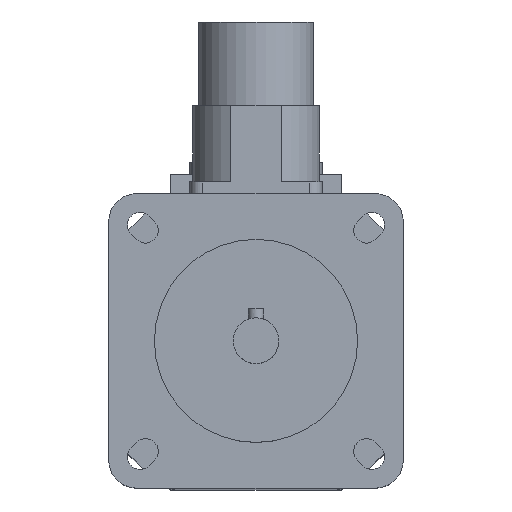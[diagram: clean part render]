
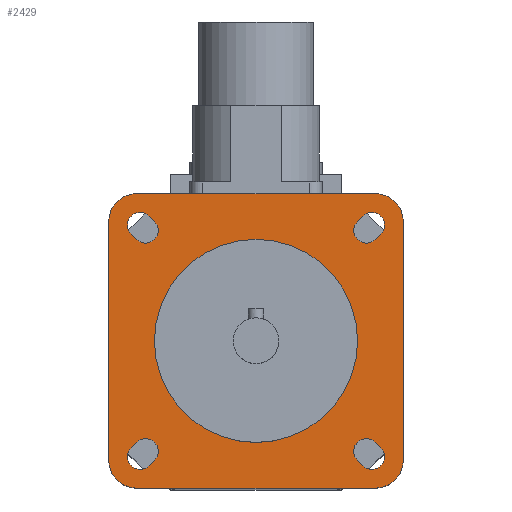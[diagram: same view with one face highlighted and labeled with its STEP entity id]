
A CAD part, top view. The second image highlights one B-rep face of the part: STEP entity #2429.
In plain terms, the highlighted planar face has unit normal (0, 0, 1).
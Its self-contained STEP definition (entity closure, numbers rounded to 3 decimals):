
#28=FACE_BOUND('',#427,.T.);
#29=FACE_BOUND('',#428,.T.);
#30=FACE_BOUND('',#429,.T.);
#31=FACE_BOUND('',#430,.T.);
#32=FACE_BOUND('',#431,.T.);
#47=CIRCLE('',#2525,20.);
#84=CIRCLE('',#2589,2.5);
#88=CIRCLE('',#2596,2.5);
#89=CIRCLE('',#2599,2.5);
#90=CIRCLE('',#2602,2.5);
#100=CIRCLE('',#2617,2.5);
#101=CIRCLE('',#2620,2.5);
#102=CIRCLE('',#2623,2.5);
#103=CIRCLE('',#2626,2.5);
#104=CIRCLE('',#2628,5.5);
#105=CIRCLE('',#2630,5.5);
#106=CIRCLE('',#2632,5.5);
#107=CIRCLE('',#2634,5.5);
#282=FACE_OUTER_BOUND('',#426,.T.);
#426=EDGE_LOOP('',(#1862,#1863,#1864,#1865,#1866,#1867,#1868,#1869));
#427=EDGE_LOOP('',(#1870));
#428=EDGE_LOOP('',(#1871,#1872,#1873,#1874));
#429=EDGE_LOOP('',(#1875,#1876,#1877,#1878));
#430=EDGE_LOOP('',(#1879,#1880,#1881,#1882));
#431=EDGE_LOOP('',(#1883,#1884,#1885,#1886));
#576=LINE('',#3759,#807);
#584=LINE('',#3783,#815);
#588=LINE('',#3793,#819);
#592=LINE('',#3803,#823);
#608=LINE('',#3854,#839);
#610=LINE('',#3860,#841);
#612=LINE('',#3866,#843);
#614=LINE('',#3872,#845);
#623=LINE('',#3900,#854);
#624=LINE('',#3901,#855);
#625=LINE('',#3902,#856);
#626=LINE('',#3903,#857);
#807=VECTOR('',#2980,1.5);
#815=VECTOR('',#3002,1.5);
#819=VECTOR('',#3012,1.5);
#823=VECTOR('',#3022,1.5);
#839=VECTOR('',#3068,1.5);
#841=VECTOR('',#3076,1.5);
#843=VECTOR('',#3084,1.5);
#845=VECTOR('',#3092,1.5);
#854=VECTOR('',#3123,47.);
#855=VECTOR('',#3124,47.);
#856=VECTOR('',#3125,47.);
#857=VECTOR('',#3126,47.);
#992=VERTEX_POINT('',#3580);
#1057=VERTEX_POINT('',#3756);
#1058=VERTEX_POINT('',#3758);
#1059=VERTEX_POINT('',#3762);
#1066=VERTEX_POINT('',#3780);
#1067=VERTEX_POINT('',#3782);
#1068=VERTEX_POINT('',#3786);
#1069=VERTEX_POINT('',#3790);
#1070=VERTEX_POINT('',#3792);
#1071=VERTEX_POINT('',#3796);
#1072=VERTEX_POINT('',#3800);
#1073=VERTEX_POINT('',#3802);
#1074=VERTEX_POINT('',#3806);
#1093=VERTEX_POINT('',#3852);
#1094=VERTEX_POINT('',#3858);
#1095=VERTEX_POINT('',#3864);
#1096=VERTEX_POINT('',#3870);
#1097=VERTEX_POINT('',#3876);
#1098=VERTEX_POINT('',#3878);
#1099=VERTEX_POINT('',#3882);
#1100=VERTEX_POINT('',#3884);
#1101=VERTEX_POINT('',#3888);
#1102=VERTEX_POINT('',#3890);
#1103=VERTEX_POINT('',#3894);
#1104=VERTEX_POINT('',#3896);
#1234=EDGE_CURVE('',#992,#992,#47,.T.);
#1320=EDGE_CURVE('',#1058,#1057,#576,.T.);
#1323=EDGE_CURVE('',#1057,#1059,#84,.T.);
#1332=EDGE_CURVE('',#1067,#1066,#584,.T.);
#1335=EDGE_CURVE('',#1066,#1068,#88,.T.);
#1337=EDGE_CURVE('',#1070,#1069,#588,.T.);
#1340=EDGE_CURVE('',#1069,#1071,#89,.T.);
#1342=EDGE_CURVE('',#1073,#1072,#592,.T.);
#1345=EDGE_CURVE('',#1072,#1074,#90,.T.);
#1368=EDGE_CURVE('',#1071,#1093,#608,.T.);
#1369=EDGE_CURVE('',#1093,#1070,#100,.T.);
#1371=EDGE_CURVE('',#1068,#1094,#610,.T.);
#1372=EDGE_CURVE('',#1094,#1067,#101,.T.);
#1374=EDGE_CURVE('',#1074,#1095,#612,.T.);
#1375=EDGE_CURVE('',#1095,#1073,#102,.T.);
#1377=EDGE_CURVE('',#1059,#1096,#614,.T.);
#1378=EDGE_CURVE('',#1096,#1058,#103,.T.);
#1380=EDGE_CURVE('',#1098,#1097,#104,.T.);
#1383=EDGE_CURVE('',#1100,#1099,#105,.T.);
#1386=EDGE_CURVE('',#1102,#1101,#106,.T.);
#1389=EDGE_CURVE('',#1104,#1103,#107,.T.);
#1391=EDGE_CURVE('',#1097,#1104,#623,.T.);
#1392=EDGE_CURVE('',#1103,#1102,#624,.T.);
#1393=EDGE_CURVE('',#1101,#1100,#625,.T.);
#1394=EDGE_CURVE('',#1099,#1098,#626,.T.);
#1862=ORIENTED_EDGE('',*,*,#1391,.T.);
#1863=ORIENTED_EDGE('',*,*,#1389,.T.);
#1864=ORIENTED_EDGE('',*,*,#1392,.T.);
#1865=ORIENTED_EDGE('',*,*,#1386,.T.);
#1866=ORIENTED_EDGE('',*,*,#1393,.T.);
#1867=ORIENTED_EDGE('',*,*,#1383,.T.);
#1868=ORIENTED_EDGE('',*,*,#1394,.T.);
#1869=ORIENTED_EDGE('',*,*,#1380,.T.);
#1870=ORIENTED_EDGE('',*,*,#1234,.T.);
#1871=ORIENTED_EDGE('',*,*,#1368,.T.);
#1872=ORIENTED_EDGE('',*,*,#1369,.T.);
#1873=ORIENTED_EDGE('',*,*,#1337,.T.);
#1874=ORIENTED_EDGE('',*,*,#1340,.T.);
#1875=ORIENTED_EDGE('',*,*,#1371,.T.);
#1876=ORIENTED_EDGE('',*,*,#1372,.T.);
#1877=ORIENTED_EDGE('',*,*,#1332,.T.);
#1878=ORIENTED_EDGE('',*,*,#1335,.T.);
#1879=ORIENTED_EDGE('',*,*,#1374,.T.);
#1880=ORIENTED_EDGE('',*,*,#1375,.T.);
#1881=ORIENTED_EDGE('',*,*,#1342,.T.);
#1882=ORIENTED_EDGE('',*,*,#1345,.T.);
#1883=ORIENTED_EDGE('',*,*,#1377,.T.);
#1884=ORIENTED_EDGE('',*,*,#1378,.T.);
#1885=ORIENTED_EDGE('',*,*,#1320,.T.);
#1886=ORIENTED_EDGE('',*,*,#1323,.T.);
#2328=PLANE('',#2635);
#2429=ADVANCED_FACE('',(#282,#28,#29,#30,#31,#32),#2328,.T.);
#2525=AXIS2_PLACEMENT_3D('',#3581,#2805,#2806);
#2589=AXIS2_PLACEMENT_3D('',#3764,#2985,#2986);
#2596=AXIS2_PLACEMENT_3D('',#3788,#3007,#3008);
#2599=AXIS2_PLACEMENT_3D('',#3798,#3017,#3018);
#2602=AXIS2_PLACEMENT_3D('',#3808,#3027,#3028);
#2617=AXIS2_PLACEMENT_3D('',#3856,#3071,#3072);
#2620=AXIS2_PLACEMENT_3D('',#3862,#3079,#3080);
#2623=AXIS2_PLACEMENT_3D('',#3868,#3087,#3088);
#2626=AXIS2_PLACEMENT_3D('',#3874,#3095,#3096);
#2628=AXIS2_PLACEMENT_3D('',#3879,#3100,#3101);
#2630=AXIS2_PLACEMENT_3D('',#3885,#3106,#3107);
#2632=AXIS2_PLACEMENT_3D('',#3891,#3112,#3113);
#2634=AXIS2_PLACEMENT_3D('',#3897,#3118,#3119);
#2635=AXIS2_PLACEMENT_3D('',#3899,#3121,#3122);
#2805=DIRECTION('center_axis',(0.,0.,-1.));
#2806=DIRECTION('ref_axis',(-1.,0.,0.));
#2980=DIRECTION('',(-0.707,-0.707,0.));
#2985=DIRECTION('center_axis',(0.,0.,-1.));
#2986=DIRECTION('ref_axis',(0.707,-0.707,0.));
#3002=DIRECTION('',(-0.707,0.707,0.));
#3007=DIRECTION('center_axis',(0.,0.,-1.));
#3008=DIRECTION('ref_axis',(-0.707,-0.707,0.));
#3012=DIRECTION('',(-0.707,-0.707,0.));
#3017=DIRECTION('center_axis',(0.,0.,-1.));
#3018=DIRECTION('ref_axis',(0.707,-0.707,0.));
#3022=DIRECTION('',(-0.707,0.707,0.));
#3027=DIRECTION('center_axis',(0.,0.,-1.));
#3028=DIRECTION('ref_axis',(-0.707,-0.707,0.));
#3068=DIRECTION('',(0.707,0.707,0.));
#3071=DIRECTION('center_axis',(0.,0.,-1.));
#3072=DIRECTION('ref_axis',(-0.707,0.707,0.));
#3076=DIRECTION('',(0.707,-0.707,0.));
#3079=DIRECTION('center_axis',(0.,0.,-1.));
#3080=DIRECTION('ref_axis',(0.707,0.707,0.));
#3084=DIRECTION('',(0.707,-0.707,0.));
#3087=DIRECTION('center_axis',(0.,0.,-1.));
#3088=DIRECTION('ref_axis',(0.707,0.707,0.));
#3092=DIRECTION('',(0.707,0.707,0.));
#3095=DIRECTION('center_axis',(0.,0.,-1.));
#3096=DIRECTION('ref_axis',(-0.707,0.707,0.));
#3100=DIRECTION('center_axis',(0.,0.,1.));
#3101=DIRECTION('ref_axis',(1.,0.,0.));
#3106=DIRECTION('center_axis',(0.,0.,1.));
#3107=DIRECTION('ref_axis',(0.,-1.,0.));
#3112=DIRECTION('center_axis',(0.,0.,1.));
#3113=DIRECTION('ref_axis',(-1.,0.,0.));
#3118=DIRECTION('center_axis',(0.,0.,1.));
#3119=DIRECTION('ref_axis',(0.,1.,0.));
#3121=DIRECTION('center_axis',(0.,0.,1.));
#3122=DIRECTION('ref_axis',(1.,0.,0.));
#3123=DIRECTION('',(-1.,0.,0.));
#3124=DIRECTION('',(0.,-1.,0.));
#3125=DIRECTION('',(1.,0.,0.));
#3126=DIRECTION('',(0.,1.,0.));
#3580=CARTESIAN_POINT('',(20.,0.,145.5));
#3581=CARTESIAN_POINT('Origin',(0.,0.,145.5));
#3756=CARTESIAN_POINT('',(-21.036,-24.572,145.5));
#3758=CARTESIAN_POINT('',(-19.976,-23.511,145.5));
#3759=CARTESIAN_POINT('',(-9.634,-13.17,145.5));
#3762=CARTESIAN_POINT('',(-24.572,-21.036,145.5));
#3764=CARTESIAN_POINT('Origin',(-22.804,-22.804,145.5));
#3780=CARTESIAN_POINT('',(-24.572,21.036,145.5));
#3782=CARTESIAN_POINT('',(-23.511,19.976,145.5));
#3783=CARTESIAN_POINT('',(-13.17,9.634,145.5));
#3786=CARTESIAN_POINT('',(-21.036,24.572,145.5));
#3788=CARTESIAN_POINT('Origin',(-22.804,22.804,145.5));
#3790=CARTESIAN_POINT('',(23.511,19.976,145.5));
#3792=CARTESIAN_POINT('',(24.572,21.036,145.5));
#3793=CARTESIAN_POINT('',(12.64,9.104,145.5));
#3796=CARTESIAN_POINT('',(19.976,23.511,145.5));
#3798=CARTESIAN_POINT('Origin',(21.744,21.744,145.5));
#3800=CARTESIAN_POINT('',(19.976,-23.511,145.5));
#3802=CARTESIAN_POINT('',(21.036,-24.572,145.5));
#3803=CARTESIAN_POINT('',(9.104,-12.64,145.5));
#3806=CARTESIAN_POINT('',(23.511,-19.976,145.5));
#3808=CARTESIAN_POINT('Origin',(21.744,-21.744,145.5));
#3852=CARTESIAN_POINT('',(21.036,24.572,145.5));
#3854=CARTESIAN_POINT('',(9.634,13.17,145.5));
#3856=CARTESIAN_POINT('Origin',(22.804,22.804,145.5));
#3858=CARTESIAN_POINT('',(-19.976,23.511,145.5));
#3860=CARTESIAN_POINT('',(-9.104,12.64,145.5));
#3862=CARTESIAN_POINT('Origin',(-21.744,21.744,145.5));
#3864=CARTESIAN_POINT('',(24.572,-21.036,145.5));
#3866=CARTESIAN_POINT('',(13.17,-9.634,145.5));
#3868=CARTESIAN_POINT('Origin',(22.804,-22.804,145.5));
#3870=CARTESIAN_POINT('',(-23.511,-19.976,145.5));
#3872=CARTESIAN_POINT('',(-12.64,-9.104,145.5));
#3874=CARTESIAN_POINT('Origin',(-21.744,-21.744,145.5));
#3876=CARTESIAN_POINT('',(23.5,29.,145.5));
#3878=CARTESIAN_POINT('',(29.,23.5,145.5));
#3879=CARTESIAN_POINT('Origin',(23.5,23.5,145.5));
#3882=CARTESIAN_POINT('',(29.,-23.5,145.5));
#3884=CARTESIAN_POINT('',(23.5,-29.,145.5));
#3885=CARTESIAN_POINT('Origin',(23.5,-23.5,145.5));
#3888=CARTESIAN_POINT('',(-23.5,-29.,145.5));
#3890=CARTESIAN_POINT('',(-29.,-23.5,145.5));
#3891=CARTESIAN_POINT('Origin',(-23.5,-23.5,145.5));
#3894=CARTESIAN_POINT('',(-29.,23.5,145.5));
#3896=CARTESIAN_POINT('',(-23.5,29.,145.5));
#3897=CARTESIAN_POINT('Origin',(-23.5,23.5,145.5));
#3899=CARTESIAN_POINT('Origin',(0.,0.,
145.5));
#3900=CARTESIAN_POINT('',(23.5,29.,145.5));
#3901=CARTESIAN_POINT('',(-29.,23.5,145.5));
#3902=CARTESIAN_POINT('',(-23.5,-29.,145.5));
#3903=CARTESIAN_POINT('',(29.,-23.5,145.5));
